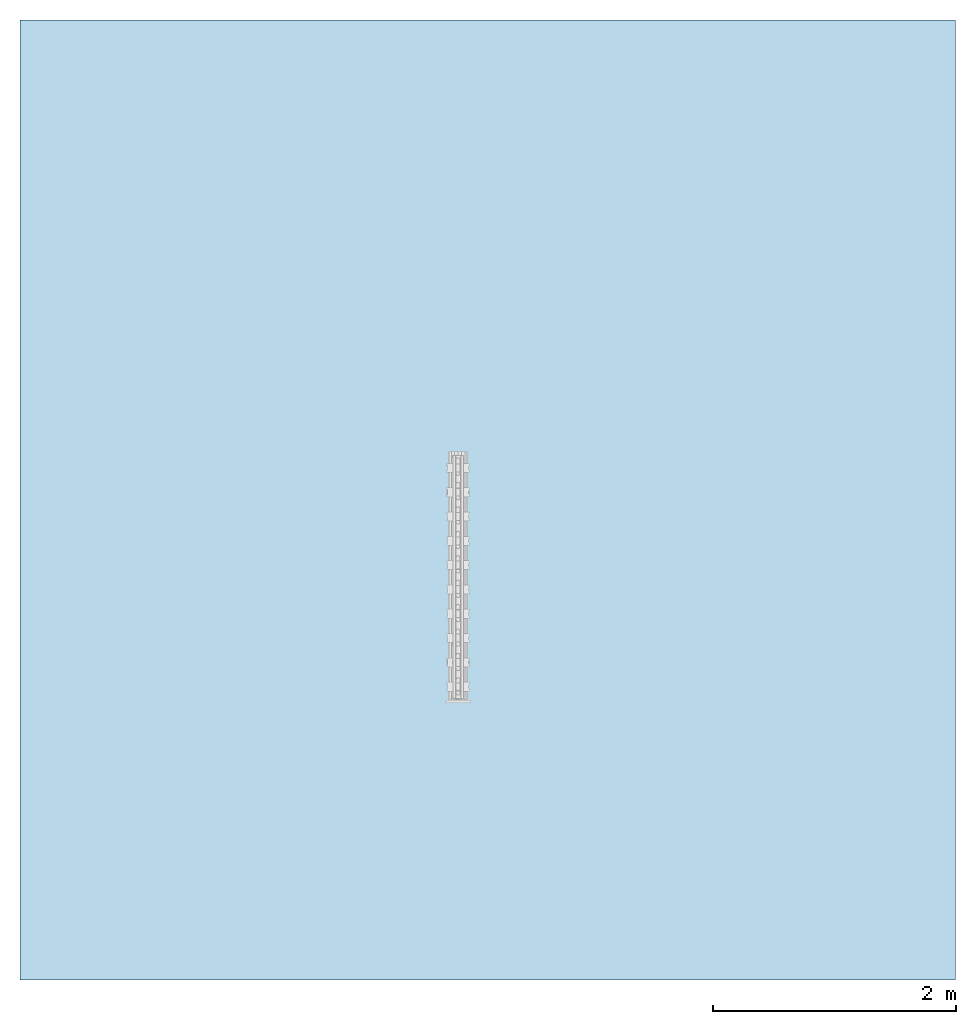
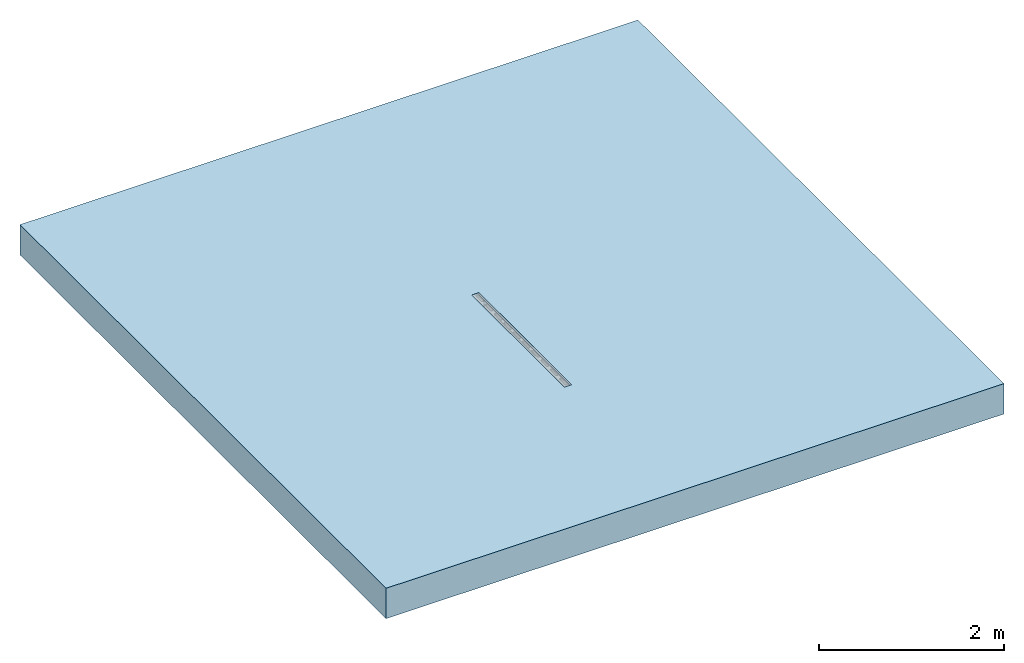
# One storey, incomplete: 1 slab, 1 opening.
"""IFC2X3 building model written with IfcOpenShell, lengths in millimetres."""

from ifc_helpers import new_model, entity, si_unit, converted_unit, direction, frame, frame_2d, origin, place, context, subcontext, project, spatial, polyline, rectangle, outline, extrude, material, layer, layer_set, layer_usage, element, save


model = new_model("IFC2X3")

# Units and contexts
model_context = context("Model", 3, precision=1e-06, world=origin(), true_north=direction((2.0, 6.12303176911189e-17, 1.0)))
context_of_model = context(None, 3, precision=1e-06, world=origin(), true_north=direction((2.0, 6.12303176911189e-17, 1.0)))
body_context = subcontext(model_context, "Body", "Model", "MODEL_VIEW")
ifc_project = project(units=[si_unit("LENGTHUNIT", "METRE", prefix="MILLI"), si_unit("AREAUNIT", "SQUARE_METRE", prefix="MILLI"), si_unit("VOLUMEUNIT", "CUBIC_METRE", prefix="MILLI"), converted_unit("PLANEANGLEUNIT", "DEGREE", entity("IfcRatioMeasure", 0.0174532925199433), si_unit("PLANEANGLEUNIT", "RADIAN"), dimensions=[0, 0, 0, 0, 0, 0, 0]), si_unit("TIMEUNIT", "SECOND")], contexts=[model_context, context_of_model])

# Site, building, storey
site_placement = place(None, origin())
site = spatial("IfcSite", under=ifc_project, at=site_placement, Name="Default", CompositionType="ELEMENT")
building_placement = place(site_placement, origin())
building = spatial("IfcBuilding", under=site, at=building_placement, CompositionType="ELEMENT")
storey_placement = place(building_placement, origin())
storey = spatial("IfcBuildingStorey", under=building, at=storey_placement, Name="Level 1", CompositionType="ELEMENT", Elevation=0.0)

# Slab, opening
ifc_material = material(Name="Plant")
ifc_layer = layer(ifc_material, 400.0)
ifc_layer_set = layer_set([ifc_layer], Name="Floor:Generic Floor - 400mm")
ifc_layer_usage = layer_usage(ifc_layer_set, "AXIS3", "POSITIVE", 0.0)
slab_placement = place(storey_placement, frame((-12747.8626183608, -2890.92363446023, -400.0)))
slab = element("IfcSlab", 1, at=slab_placement, inside=storey, material=ifc_layer_usage, Name="Floor:Generic Floor - 400mm", ObjectType="Floor:Generic Floor - 400mm", PredefinedType="FLOOR", context=body_context, shape_type="SweptSolid", body=[
    extrude(rectangle(XDim=7900.0, YDim=7700.0, at=frame_2d((0.0, 0.0), x_axis=(0.0, -1.0))), frame((3850.0, 3950.0, 400.0), z_axis=(0.0, 0.0, -1.0), x_axis=(-1.0, 0.0, 0.0)), (0.0, 0.0, 1.0), 400.0),
])
opening_placement = place(slab_placement, origin())
element("IfcOpeningElement", 2, at=opening_placement, cuts=slab, ObjectType="Opening", context=body_context, shape_type="SweptSolid", body=[
    extrude(outline(polyline([(-115.0, 45.0), (-115.0, -45.0), (-85.0, -45.0), (-85.0, -108.0), (285.0, -108.0), (285.0, 108.0), (-85.0, 108.0), (-85.0, 45.0), (-115.0, 45.0)])), frame((3604.85823138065, 2315.31219286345, 285.0), z_axis=(0.0, -1.0, 0.0), x_axis=(0.0, 0.0, -1.0)), (0.0, 0.0, -1.0), 2000.0),
])

save(model, "model.ifc")
